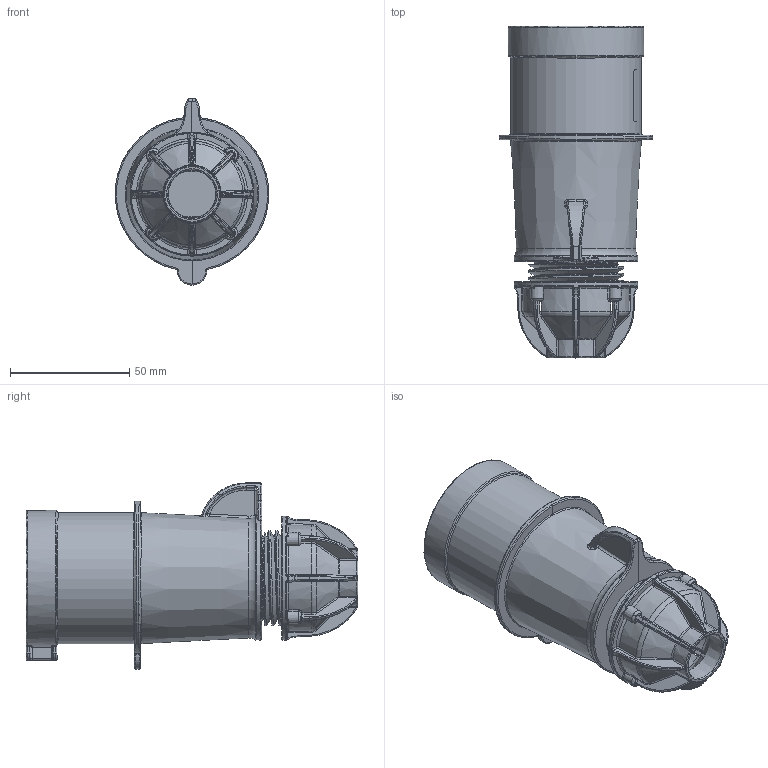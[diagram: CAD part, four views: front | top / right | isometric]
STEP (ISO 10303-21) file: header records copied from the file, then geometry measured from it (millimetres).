
FILE_DESCRIPTION(/* description */ (''),/* implementation_level */ '2;1');
FILE_NAME(/* name */ '4002617.stp',/* time_stamp */ '2016-09-22T12:14:45+02:00',/* author */ (''),/* organization */ (''),/* preprocessor_version */ 'ST-DEVELOPER v16',/* originating_system */ 'SIEMENS PLM Software NX 11.0',/* authorisation */ '');
FILE_SCHEMA (('AUTOMOTIVE_DESIGN { 1 0 10303 214 3 1 1 1 }'));
Length unit declared in the file: millimetre
Products named in the file (1): 4002617_LINKEDEXT_jt
Bounding box: 64.45 x 139.3 x 78.2 mm (x, y, z)
Surface area: 50678.7 mm2 (no closed solid volume)
Topology: 0 solids, 26 shells, 662 faces, 2119 edges, 1383 vertices
Faces by surface type: bspline 389, plane 105, cylinder 79, cone 58, torus 31
Full cylindrical faces by diameter (mm): 6 x1, 34.793 x5, 55 x1
Entity records: 54022 total; most frequent: CARTESIAN_POINT 35046, ORIENTED_EDGE 3326, EDGE_CURVE 2061, DIRECTION 1772, VERTEX_POINT 1360, B_SPLINE_CURVE_WITH_KNOTS 1324, AXIS2_PLACEMENT_3D 768, EDGE_LOOP 691
